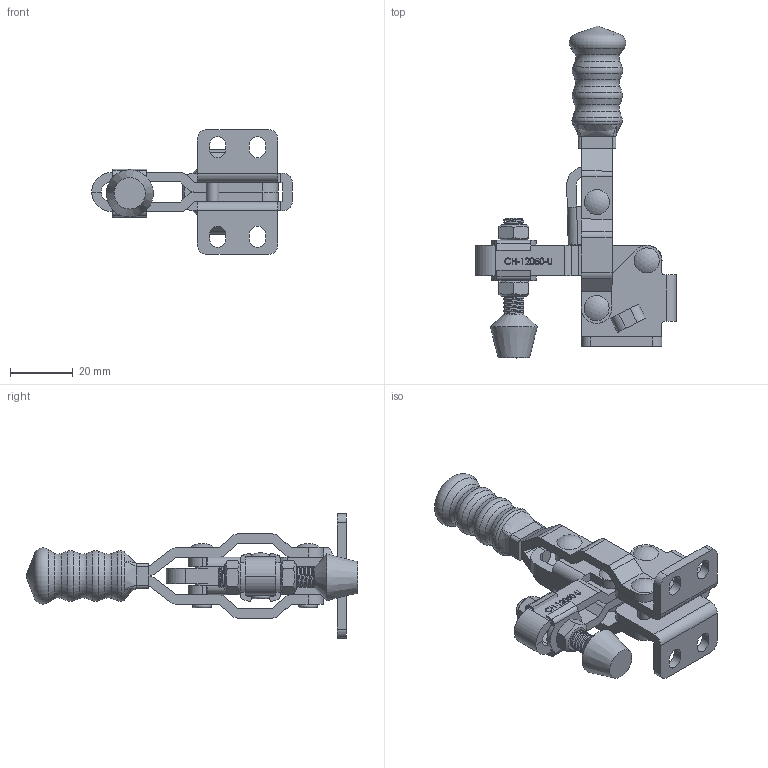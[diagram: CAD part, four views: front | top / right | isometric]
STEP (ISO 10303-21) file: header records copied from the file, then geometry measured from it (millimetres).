
FILE_DESCRIPTION(/* description */ ('STEP AP203'),/* implementation_level */ '2;1');
FILE_NAME(/* name */ 'D:\Vault_2016\Projekty\NASZ KATALOG\CLAMPTEK\STRONA\Vertical toggle clamp\CH-12050-U\CH-12050-U_ZAMKNIETY.stp',/* time_stamp */ '2019-01-18T14:36:49+01:00',/* author */ ('CADENGINEERING4'),/* organization */ ('Î¢ÈíÖÐ¹ú'),/* preprocessor_version */ 'ST-DEVELOPER v17.2',/* originating_system */ 'Autodesk Inventor 2019',/* authorisation */ '');
FILE_SCHEMA (('AUTOMOTIVE_DESIGN { 1 0 10303 214 3 1 1 }'));
Products named in the file (11): CH-12050-U_ZAMKNIETY; CH-12050-01 FLANGED BASE; CH-12050-04 CONNECTING-PLATE; CH-12050-03 STRAIGHT HANDLE; CH-12050-07; CH-12050-06; CH-FW-140; CH-12050-05; CH-12050-U-02 U-BAR; CH-FC-14134 SPINDLE SUPPLIED; CH-FC-14134 Nut
Assembly tree (14 placements, depth 2):
  CH-12050-U_ZAMKNIETY
    CH-12050-01 FLANGED BASE
    CH-12050-04 CONNECTING-PLATE
    CH-12050-03 STRAIGHT HANDLE
    CH-12050-07  x2
    CH-12050-06  x2
    CH-FW-140  x2
    CH-12050-05
    CH-12050-U-02 U-BAR
    CH-FC-14134 Nut  x2
    CH-FC-14134 SPINDLE SUPPLIED
Bounding box: 63.9 x 105.84 x 39.8 mm (x, y, z)
Volume: 26132.4 mm3; surface area: 23639.1 mm2
Topology: 16 solids, 18 shells, 702 faces, 1958 edges, 1323 vertices
Faces by surface type: plane 321, bspline 195, cylinder 141, cone 25, torus 16, sphere 4
Full cylindrical faces by diameter (mm): 0.993 x1, 1.15 x1, 4 x20, 5.1 x6, 6.3 x2, 6.4 x26
Entity records: 39930 total; most frequent: CARTESIAN_POINT 23871, ORIENTED_EDGE 3630, DIRECTION 2606, EDGE_CURVE 1815, VERTEX_POINT 1227, LINE 1024, VECTOR 1024, AXIS2_PLACEMENT_3D 791
